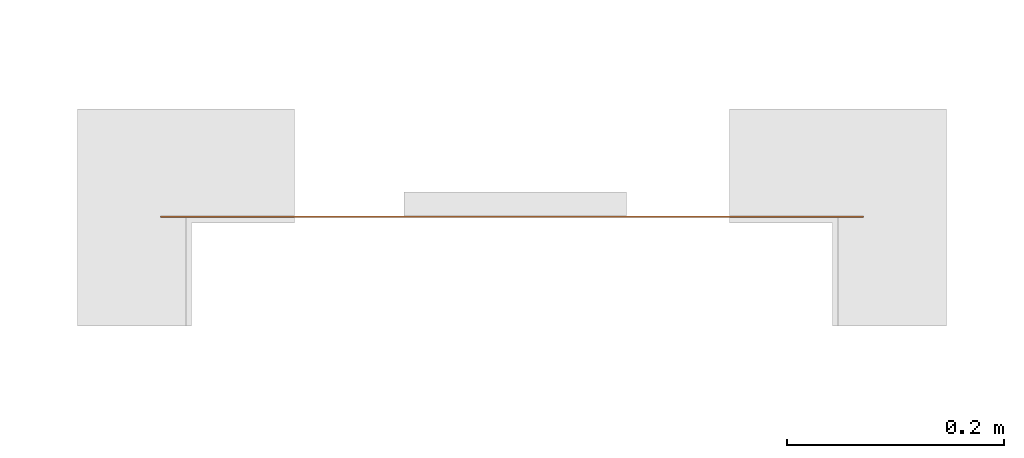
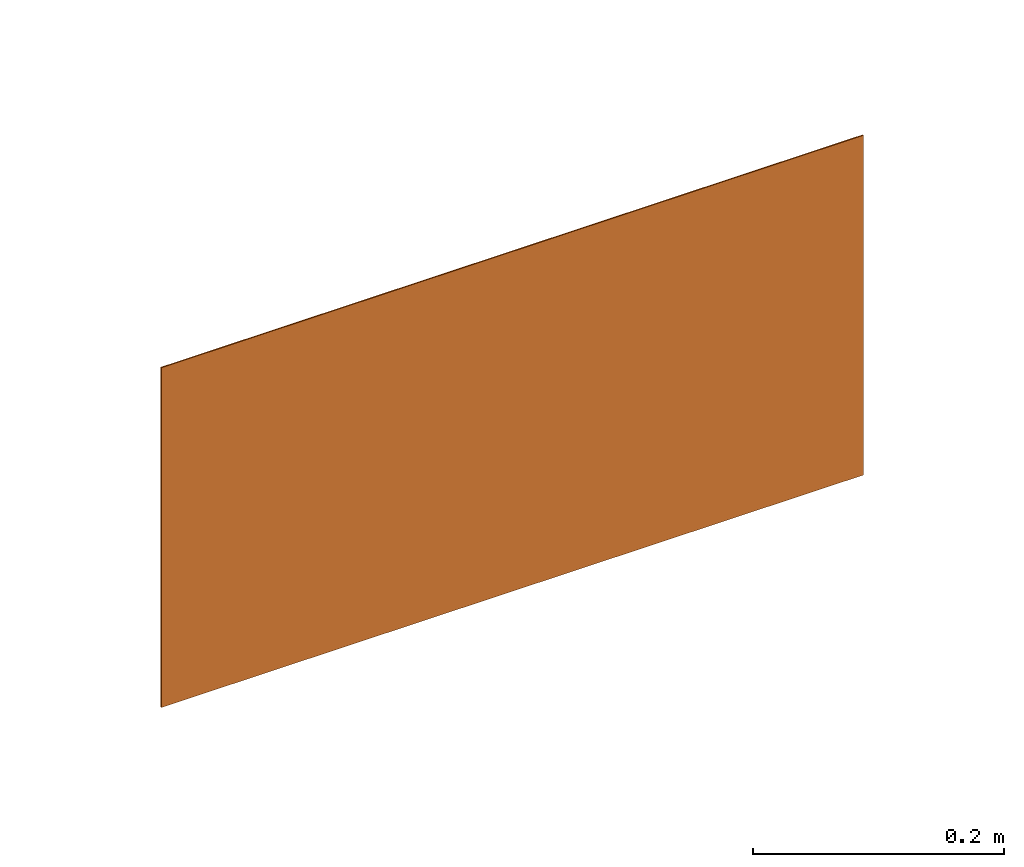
# One storey, part 103 of 119: 1 proxy.
"""IFC2X3 building model written with IfcOpenShell, lengths in metres."""

from ifc_helpers import new_model, entity, si_unit, converted_unit, derived_unit, direction, frame, frame_2d, origin, origin_2d_with_axis, place, context, subcontext, project, spatial, polyline, circle_curve, parameter, trimmed, segment, composite_curve, rectangle, outline, extrude, source, transform, mapped, material, material_list, type_object, type_shapes, element, save


model = new_model("IFC2X3")

# Units and contexts
model_context = context("Model", 3, precision=1e-05, world=origin(), true_north=direction((6.12303176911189e-17, 1.0)))
body_context = subcontext(model_context, "Body", "Model", "MODEL_VIEW")
ifc_project = project(units=[si_unit("LENGTHUNIT", "METRE"), si_unit("AREAUNIT", "SQUARE_METRE"), si_unit("VOLUMEUNIT", "CUBIC_METRE"), converted_unit("PLANEANGLEUNIT", "DEGREE", entity("IfcRatioMeasure", 0.0174532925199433), si_unit("PLANEANGLEUNIT", "RADIAN"), dimensions=[0, 0, 0, 0, 0, 0, 0]), si_unit("MASSUNIT", "GRAM", prefix="KILO"), derived_unit("MASSDENSITYUNIT", [(si_unit("MASSUNIT", "GRAM", prefix="KILO"), 1), (si_unit("LENGTHUNIT", "METRE"), -3)]), derived_unit("MOMENTOFINERTIAUNIT", [(si_unit("LENGTHUNIT", "METRE"), 4)]), si_unit("TIMEUNIT", "SECOND"), si_unit("FREQUENCYUNIT", "HERTZ"), si_unit("THERMODYNAMICTEMPERATUREUNIT", "DEGREE_CELSIUS"), derived_unit("THERMALTRANSMITTANCEUNIT", [(si_unit("MASSUNIT", "GRAM", prefix="KILO"), 1), (si_unit("THERMODYNAMICTEMPERATUREUNIT", "KELVIN"), -1), (si_unit("TIMEUNIT", "SECOND"), -3)]), derived_unit("VOLUMETRICFLOWRATEUNIT", [(si_unit("LENGTHUNIT", "METRE"), 3), (si_unit("TIMEUNIT", "SECOND"), -1)]), si_unit("ELECTRICCURRENTUNIT", "AMPERE"), si_unit("ELECTRICVOLTAGEUNIT", "VOLT"), si_unit("POWERUNIT", "WATT"), si_unit("FORCEUNIT", "NEWTON", prefix="KILO"), si_unit("ILLUMINANCEUNIT", "LUX"), si_unit("LUMINOUSFLUXUNIT", "LUMEN"), si_unit("LUMINOUSINTENSITYUNIT", "CANDELA"), derived_unit("USERDEFINED", [(si_unit("MASSUNIT", "GRAM", prefix="KILO"), -1), (si_unit("LENGTHUNIT", "METRE"), -2), (si_unit("TIMEUNIT", "SECOND"), 3), (si_unit("LUMINOUSFLUXUNIT", "LUMEN"), 1)]), derived_unit("LINEARVELOCITYUNIT", [(si_unit("LENGTHUNIT", "METRE"), 1), (si_unit("TIMEUNIT", "SECOND"), -1)]), si_unit("PRESSUREUNIT", "PASCAL"), derived_unit("USERDEFINED", [(si_unit("LENGTHUNIT", "METRE"), -2), (si_unit("MASSUNIT", "GRAM", prefix="KILO"), 1), (si_unit("TIMEUNIT", "SECOND"), -2)]), derived_unit("LINEARFORCEUNIT", [(si_unit("MASSUNIT", "GRAM", prefix="KILO"), 1), (si_unit("LENGTHUNIT", "METRE"), 1), (si_unit("TIMEUNIT", "SECOND"), -2), (si_unit("LENGTHUNIT", "METRE"), -1)]), derived_unit("PLANARFORCEUNIT", [(si_unit("MASSUNIT", "GRAM", prefix="KILO"), 1), (si_unit("LENGTHUNIT", "METRE"), 1), (si_unit("TIMEUNIT", "SECOND"), -2), (si_unit("LENGTHUNIT", "METRE"), -2)])], contexts=[model_context])

# Site, building, storey
site_placement = place(None, origin())
site = spatial("IfcSite", under=ifc_project, at=site_placement, Name="Default", CompositionType="ELEMENT")
building_placement = place(site_placement, origin())
building = spatial("IfcBuilding", under=site, at=building_placement, CompositionType="ELEMENT")
storey_placement = place(building_placement, origin())
storey = spatial("IfcBuildingStorey", under=building, at=storey_placement, Name="PAV. 01 - TÉRREO", CompositionType="ELEMENT", Elevation=0.0)

# Proxy
ifc_material_1 = material(Name="Plastico branco")
ifc_material_2 = material(Name="Plastico Verde")
ifc_material_list = material_list([ifc_material_1, ifc_material_2])
building_element_proxy_type = type_object("IfcBuildingElementProxyType", Name="Sinalização de orientação - S02 - Indicação do sentido da saída de emergência esquerda:Distância 20m", PredefinedType="NOTDEFINED", material=ifc_material_1)
shared_shape = source(origin(), body_context, "Body", "SweptSolid", [
    extrude(outline(polyline([(-0.0447808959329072, -0.0403053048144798), (-0.043171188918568, -0.0403053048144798), (-0.0413200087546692, -0.0389366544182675), (-0.0392890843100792, -0.0364788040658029), (-0.0371401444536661, -0.033211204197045), (-0.0349349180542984, -0.0294133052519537), (-0.0265856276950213, -0.0138527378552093), (-0.0227430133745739, -0.00709511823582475), (-0.0208230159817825, -0.00397540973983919), (-0.0188699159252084, -0.00102040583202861), (-0.0168582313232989, 0.00177591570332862), (-0.0147624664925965, 0.00441959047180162), (-0.0125318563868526, 0.00694116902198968), (-0.0100380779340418, 0.00944644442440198), (-0.00713797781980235, 0.0120555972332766), (-0.00368840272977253, 0.0148888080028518), (0.000453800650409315, 0.018066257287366), (0.0268119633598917, 0.0366220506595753), (0.00900823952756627, 0.0460096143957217), (0.00759831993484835, 0.0467239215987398), (0.00663979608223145, 0.0471861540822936), (0.00601886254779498, 0.047454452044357), (0.00562171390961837, 0.0475869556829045), (0.005334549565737, 0.047641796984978), (0.00505495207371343, 0.0476577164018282), (0.00471625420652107, 0.047612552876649), (0.00425878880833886, 0.0474722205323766), (0.00362288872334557, 0.0472026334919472), (0.00274888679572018, 0.046769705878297), (0.00157711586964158, 0.0461393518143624), (-0.0256767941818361, 0.0298988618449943), (-0.0282489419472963, 0.0288779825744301), (-0.0306367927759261, 0.0282861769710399), (-0.0328328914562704, 0.028086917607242), (-0.0348297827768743, 0.0282436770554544), (-0.0366200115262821, 0.0287199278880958), (-0.0381961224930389, 0.0294791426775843), (-0.0395506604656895, 0.0304847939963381), (-0.0406761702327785, 0.0317003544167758), (-0.041565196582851, 0.0330892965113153), (-0.0422102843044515, 0.0346150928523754), (-0.0426039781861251, 0.036241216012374), (-0.0427388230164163, 0.0379311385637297), (-0.0426073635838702, 0.0396483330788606), (-0.0422021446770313, 0.0413562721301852), (-0.0415157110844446, 0.0430184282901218), (-0.040540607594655, 0.0445982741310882), (-0.0392693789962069, 0.0460592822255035), (-0.0376945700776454, 0.0473649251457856), (-0.020544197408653, 0.0580635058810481), (-0.00936529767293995, 0.0647230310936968), (-0.00237080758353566, 0.0682051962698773), (0.00222633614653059, 0.0693716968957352), (0.00619530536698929, 0.069077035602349), (0.0105721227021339, 0.0678809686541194), (0.0154180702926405, 0.0659513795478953), (0.0207269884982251, 0.0634290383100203), (0.0636286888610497, 0.0407952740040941), (0.0681400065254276, 0.0382962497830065), (0.0719015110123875, 0.0357625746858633), (0.0750089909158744, 0.032796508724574), (0.0775582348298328, 0.0290003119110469), (0.0796450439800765, 0.0239762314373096), (0.0814169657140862, 0.0172739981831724), (0.0831911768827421, 0.00827118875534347), (0.0881539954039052, -0.0192667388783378), (0.114405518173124, -0.0331658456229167), (0.169612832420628, 0.0711053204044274), (0.00387253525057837, 0.158858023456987), (-0.0853121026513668, -0.00958679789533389), (-0.0933374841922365, -0.00533768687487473), (-0.141866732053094, -0.0260508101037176), (-0.104503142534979, -0.0458333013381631), (-0.122153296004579, -0.0791695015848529), (-0.150380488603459, -0.0881243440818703), (-0.0339389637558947, -0.149775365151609), (-0.00485925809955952, -0.141271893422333), (0.0203339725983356, -0.154610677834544), (-0.0128105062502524, -0.160962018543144), (0.0158595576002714, -0.176141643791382), (0.043587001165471, -0.166922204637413), (0.104490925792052, -0.0518917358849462), (0.0750538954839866, -0.0363119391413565), (0.0725734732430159, -0.034899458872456), (0.0706715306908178, -0.0335889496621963), (0.0692214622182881, -0.0322141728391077), (0.0680966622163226, -0.0306088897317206), (0.0671705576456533, -0.0286069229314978), (0.0663377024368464, -0.0260818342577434), (0.0655501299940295, -0.0230153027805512), (0.0647695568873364, -0.0194072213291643), (0.060951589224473, 0.000442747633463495), (0.0287102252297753, -0.0230602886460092), (0.0246142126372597, -0.146526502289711), (-0.000579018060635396, -0.133187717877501), (-0.00053001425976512, -0.0237630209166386), (-0.0206753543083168, -0.0530682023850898), (-0.0230063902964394, -0.0567384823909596), (-0.0251862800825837, -0.0599201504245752), (-0.027294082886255, -0.0625984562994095), (-0.0294088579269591, -0.0647586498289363), (-0.0316096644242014, -0.0663859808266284), (-0.0339755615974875, -0.0674656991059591), (-0.0365856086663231, -0.0679830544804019), (-0.0395188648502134, -0.0679232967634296), (-0.0428543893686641, -0.0672716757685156), (-0.0466712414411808, -0.0660134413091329), (-0.051048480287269, -0.0641338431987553), (-0.0560651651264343, -0.0616181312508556), (-0.118768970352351, -0.0284190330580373), (-0.0891409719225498, -0.0168184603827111), (-0.0447808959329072, -0.0403053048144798)]), holes=[composite_curve([segment(trimmed(circle_curve(frame_2d((0.0860212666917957, 0.0597350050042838), x_axis=(0.883770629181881, -0.467920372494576)), 0.0222863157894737), [parameter(180.0)], [parameter(0.0)], True, "PARAMETER"), False, "CONTINUOUS"), segment(trimmed(circle_curve(frame_2d((0.0860212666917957, 0.0597350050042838), x_axis=(0.883770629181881, -0.467920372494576)), 0.0222863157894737), [parameter(3.56222124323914e-13)], [parameter(180.0)], True, "PARAMETER"), False, "CONTINUOUS")], self_intersect=False)]), frame((0.18787689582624, -0.00110000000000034, 1.9685208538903), z_axis=(0.0, 1.0, 0.0), x_axis=(-0.883770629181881, 0.0, 0.467920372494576)), (0.0, 0.0, 1.0), 0.0011),
    extrude(outline(polyline([(-0.323500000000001, -0.165500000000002), (0.323500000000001, -0.165500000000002), (0.323500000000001, 0.165500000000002), (-0.323500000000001, 0.165500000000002), (-0.323500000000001, -0.165500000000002)]), holes=[polyline([(-0.316000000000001, -0.158000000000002), (-0.316000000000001, 0.157999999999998), (0.315999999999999, 0.157999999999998), (0.315999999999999, -0.158000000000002), (-0.316000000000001, -0.158000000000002)])]), frame((0.0, -0.0011, 1.9655), z_axis=(0.0, 1.0, 0.0), x_axis=(1.0, 0.0, 0.0)), (0.0, 0.0, 1.0), 0.0011),
    extrude(rectangle(XDim=0.632, YDim=0.001, at=origin_2d_with_axis()), frame((0.0, -0.0005, 1.8075)), (0.0, 0.0, 1.0), 0.316000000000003),
    extrude(outline(polyline([(-0.0567986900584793, -0.0957978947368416), (0.0276564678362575, -0.0957978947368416), (-0.0363085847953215, -0.0318328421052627), (0.141749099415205, -0.0318328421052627), (0.141749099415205, 0.0318328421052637), (-0.0363085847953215, 0.0318328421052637), (0.0276564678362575, 0.0957978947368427), (-0.0567986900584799, 0.0957978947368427), (-0.152596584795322, 0.0), (-0.0567986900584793, -0.0957978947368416)])), frame((-0.141749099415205, -0.0011, 1.9655), z_axis=(0.0, 1.0, 0.0), x_axis=(1.0, 0.0, 0.0)), (0.0, 0.0, 1.0), 0.0011),
])
type_shapes(building_element_proxy_type, [shared_shape])
proxy_placement = place(storey_placement, frame((57.1738113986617, 32.2286443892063, 0.0), z_axis=(0.0, 0.0, 1.0), x_axis=(-1.0, 0.0, 0.0)))
element("IfcBuildingElementProxy", 1, at=proxy_placement, inside=storey, type_object=building_element_proxy_type, material=ifc_material_list, Name="Sinalização de orientação - S02 - Indicação do sentido da saída de emergência esquerda:Distância 20m", ObjectType="Sinalização de orientação - S02 - Indicação do sentido da saída de emergência esquerda:Distância 20m", context=body_context, shape_type="MappedRepresentation", body=[
    mapped(shared_shape, transform((0.0, 0.0, 0.0), scale=1.0)),
])

save(model, "model.ifc")
